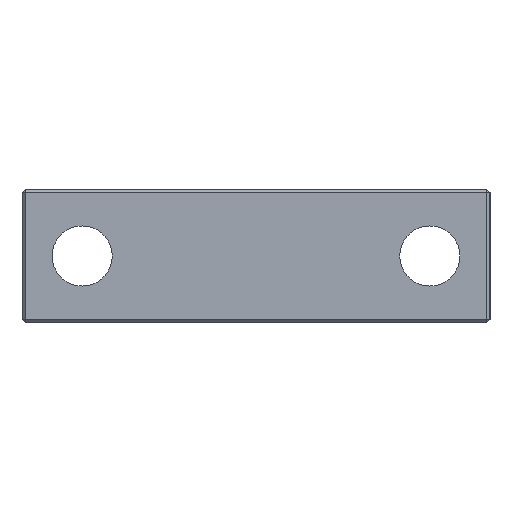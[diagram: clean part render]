
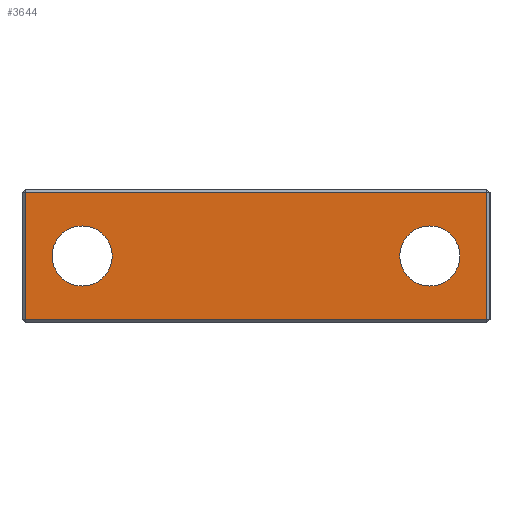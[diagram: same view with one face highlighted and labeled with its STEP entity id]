
A CAD part, front view. The second image highlights one B-rep face of the part: STEP entity #3644.
In plain terms, the highlighted planar face has unit normal (0, -1, 0).
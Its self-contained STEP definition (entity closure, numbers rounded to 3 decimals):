
#400 = VERTEX_POINT ( 'NONE', #3201 ) ;
#417 = FACE_OUTER_BOUND ( 'NONE', #4865, .T. ) ;
#432 = FACE_BOUND ( 'NONE', #3198, .T. ) ;
#438 = FACE_BOUND ( 'NONE', #4154, .T. ) ;
#461 = DIRECTION ( 'NONE',  ( 0., 0., -1. ) ) ;
#473 = CARTESIAN_POINT ( 'NONE',  ( -34.5, 0., -19.5 ) ) ;
#686 = CARTESIAN_POINT ( 'NONE',  ( -35., 0., -0.5 ) ) ;
#853 = VECTOR ( 'NONE', #867, 1000. ) ;
#867 = DIRECTION ( 'NONE',  ( 0., 0., 1. ) ) ;
#877 = LINE ( 'NONE', #956, #853 ) ;
#953 = CIRCLE ( 'NONE', #4729, 4.5 ) ;
#956 = CARTESIAN_POINT ( 'NONE',  ( 34.5, 0., -20. ) ) ;
#979 = CARTESIAN_POINT ( 'NONE',  ( 26., 0., -14.5 ) ) ;
#1057 = EDGE_CURVE ( 'NONE', #2674, #1826, #3712, .T. ) ;
#1075 = AXIS2_PLACEMENT_3D ( 'NONE', #1394, #1733, #1738 ) ;
#1194 = CIRCLE ( 'NONE', #2562, 4.5 ) ;
#1286 = DIRECTION ( 'NONE',  ( 0., 0., -1. ) ) ;
#1338 = DIRECTION ( 'NONE',  ( 0., -1., 0. ) ) ;
#1394 = CARTESIAN_POINT ( 'NONE',  ( -35., 0., -20. ) ) ;
#1537 = VERTEX_POINT ( 'NONE', #4100 ) ;
#1649 = VERTEX_POINT ( 'NONE', #979 ) ;
#1692 = ORIENTED_EDGE ( 'NONE', *, *, #1057, .T. ) ;
#1728 = PLANE ( 'NONE',  #1075 ) ;
#1733 = DIRECTION ( 'NONE',  ( 0., -1., 0. ) ) ;
#1738 = DIRECTION ( 'NONE',  ( 0., 0., -1. ) ) ;
#1745 = ORIENTED_EDGE ( 'NONE', *, *, #3286, .T. ) ;
#1760 = CIRCLE ( 'NONE', #1920, 4.5 ) ;
#1773 = CARTESIAN_POINT ( 'NONE',  ( 26., 0., -10. ) ) ;
#1817 = ORIENTED_EDGE ( 'NONE', *, *, #5103, .T. ) ;
#1825 = CARTESIAN_POINT ( 'NONE',  ( 35., 0., -19.5 ) ) ;
#1826 = VERTEX_POINT ( 'NONE', #4797 ) ;
#1867 = AXIS2_PLACEMENT_3D ( 'NONE', #1943, #1927, #1902 ) ;
#1872 = ORIENTED_EDGE ( 'NONE', *, *, #4681, .T. ) ;
#1878 = ORIENTED_EDGE ( 'NONE', *, *, #2986, .F. ) ;
#1902 = DIRECTION ( 'NONE',  ( 0., 0., -1. ) ) ;
#1920 = AXIS2_PLACEMENT_3D ( 'NONE', #2364, #2358, #2351 ) ;
#1921 = ORIENTED_EDGE ( 'NONE', *, *, #4526, .F. ) ;
#1926 = ORIENTED_EDGE ( 'NONE', *, *, #2426, .F. ) ;
#1927 = DIRECTION ( 'NONE',  ( 0., -1., 0. ) ) ;
#1931 = VERTEX_POINT ( 'NONE', #2929 ) ;
#1943 = CARTESIAN_POINT ( 'NONE',  ( -26., 0., -10. ) ) ;
#2022 = ORIENTED_EDGE ( 'NONE', *, *, #3247, .F. ) ;
#2091 = DIRECTION ( 'NONE',  ( -1., 0., 0. ) ) ;
#2169 = CARTESIAN_POINT ( 'NONE',  ( -34.5, 0., -20. ) ) ;
#2351 = DIRECTION ( 'NONE',  ( 0., 0., -1. ) ) ;
#2358 = DIRECTION ( 'NONE',  ( 0., -1., 0. ) ) ;
#2364 = CARTESIAN_POINT ( 'NONE',  ( 26., 0., -10. ) ) ;
#2383 = VERTEX_POINT ( 'NONE', #2623 ) ;
#2392 = DIRECTION ( 'NONE',  ( 1., 0., 0. ) ) ;
#2426 = EDGE_CURVE ( 'NONE', #400, #1649, #1760, .T. ) ;
#2562 = AXIS2_PLACEMENT_3D ( 'NONE', #4106, #4168, #4174 ) ;
#2623 = CARTESIAN_POINT ( 'NONE',  ( -26., 0., -14.5 ) ) ;
#2674 = VERTEX_POINT ( 'NONE', #473 ) ;
#2929 = CARTESIAN_POINT ( 'NONE',  ( -26., 0., -5.5 ) ) ;
#2986 = EDGE_CURVE ( 'NONE', #1931, #2383, #1194, .T. ) ;
#3198 = EDGE_LOOP ( 'NONE', ( #1926, #2022 ) ) ;
#3201 = CARTESIAN_POINT ( 'NONE',  ( 26., 0., -5.5 ) ) ;
#3247 = EDGE_CURVE ( 'NONE', #1649, #400, #953, .T. ) ;
#3266 = VECTOR ( 'NONE', #2091, 1000. ) ;
#3269 = LINE ( 'NONE', #686, #3266 ) ;
#3286 = EDGE_CURVE ( 'NONE', #1826, #4343, #877, .T. ) ;
#3593 = VECTOR ( 'NONE', #2392, 1000. ) ;
#3634 = CARTESIAN_POINT ( 'NONE',  ( 34.5, 0., -0.5 ) ) ;
#3644 = ADVANCED_FACE ( 'NONE', ( #417, #438, #432 ), #1728, .T. ) ;
#3712 = LINE ( 'NONE', #1825, #3593 ) ;
#3800 = VECTOR ( 'NONE', #461, 1000. ) ;
#3813 = LINE ( 'NONE', #2169, #3800 ) ;
#4041 = CIRCLE ( 'NONE', #1867, 4.5 ) ;
#4100 = CARTESIAN_POINT ( 'NONE',  ( -34.5, 0., -0.5 ) ) ;
#4106 = CARTESIAN_POINT ( 'NONE',  ( -26., 0., -10. ) ) ;
#4154 = EDGE_LOOP ( 'NONE', ( #1878, #1921 ) ) ;
#4168 = DIRECTION ( 'NONE',  ( 0., -1., 0. ) ) ;
#4174 = DIRECTION ( 'NONE',  ( 0., 0., -1. ) ) ;
#4343 = VERTEX_POINT ( 'NONE', #3634 ) ;
#4526 = EDGE_CURVE ( 'NONE', #2383, #1931, #4041, .T. ) ;
#4681 = EDGE_CURVE ( 'NONE', #1537, #2674, #3813, .T. ) ;
#4729 = AXIS2_PLACEMENT_3D ( 'NONE', #1773, #1338, #1286 ) ;
#4797 = CARTESIAN_POINT ( 'NONE',  ( 34.5, 0., -19.5 ) ) ;
#4865 = EDGE_LOOP ( 'NONE', ( #1692, #1745, #1817, #1872 ) ) ;
#5103 = EDGE_CURVE ( 'NONE', #4343, #1537, #3269, .T. ) ;
